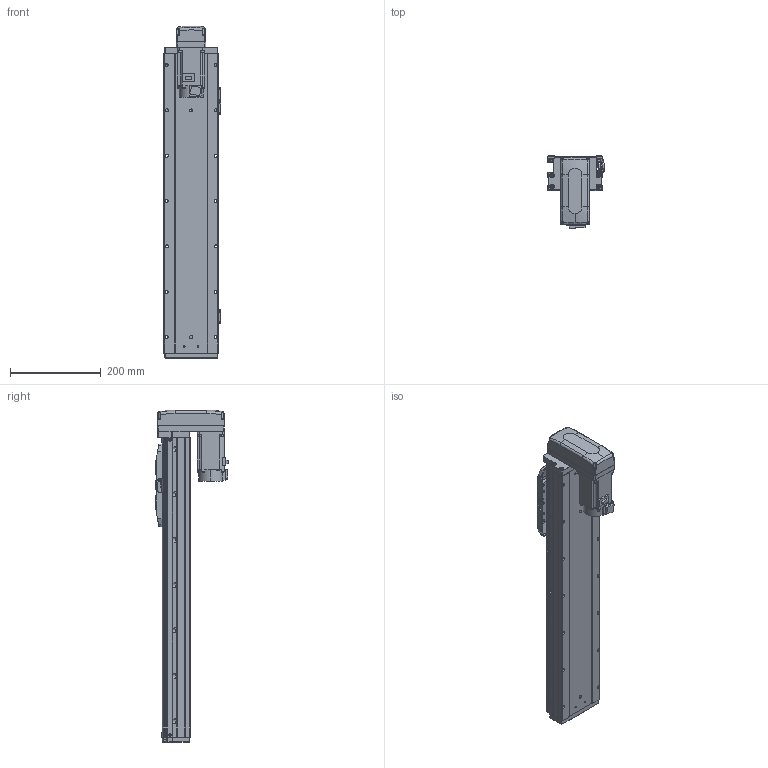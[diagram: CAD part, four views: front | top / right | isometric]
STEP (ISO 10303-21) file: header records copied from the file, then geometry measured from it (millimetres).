
FILE_DESCRIPTION (( 'STEP AP203' ), '1' );
FILE_NAME ('GTH12-450-BM-M40-C4.step', '2022-09-29T02:01:21', ( '微软用户' ), ( '微软中国' ), 'SwSTEP 2.0', 'SolidWorks 2020', '' );
FILE_SCHEMA (( 'CONFIG_CONTROL_DESIGN' ));
Length unit declared in the file: millimetre
Products named in the file (18): GTH120-001_450; GBT 70.3-M3℅8; hg-kn43j_-s100_; GTH120-003; GTH80-022; CTHA86-033_M40B; GTH120-006; GTH80-028; GTH120-027-1_GTH120-027-2; GTH120-004; GTH50-023; GTH12-450-BM-M40-C4; GTH120-013; GTH50-024; GBT 70.1-M3℅6; GBT96.1-2002 3×0.8; GBT 70.1-M5×16; BTH-M3X5X6
Assembly tree (59 placements, depth 2):
  GTH12-450-BM-M40-C4
    GTH120-001_450
    GTH120-003
    GTH120-006
    GTH120-004
    GTH120-013
    GBT 70.1-M3℅6  x14
    GBT 70.1-M5×16  x10
    GBT 70.3-M3℅8  x4
    GTH80-022
    GTH80-028  x2
    GTH50-023  x3
    GTH50-024  x3
    GBT96.1-2002 3×0.8  x6
    BTH-M3X5X6  x8
    hg-kn43j_-s100_
    CTHA86-033_M40B
    GTH120-027-1_GTH120-027-2
Bounding box: 125.7 x 159.8 x 732 mm (x, y, z)
Volume: 5559304.4 mm3; surface area: 544444.2 mm2
Topology: 61 solids, 61 shells, 2405 faces, 5594 edges, 3431 vertices
Faces by surface type: plane 1246, cylinder 687, cone 284, torus 174, sphere 8, bspline 6
Entity records: 44424 total; most frequent: CARTESIAN_POINT 7560, DIRECTION 7326, ORIENTED_EDGE 6798, EDGE_CURVE 3399, AXIS2_PLACEMENT_3D 2562, VECTOR 2202, LINE 2202, VERTEX_POINT 2152
